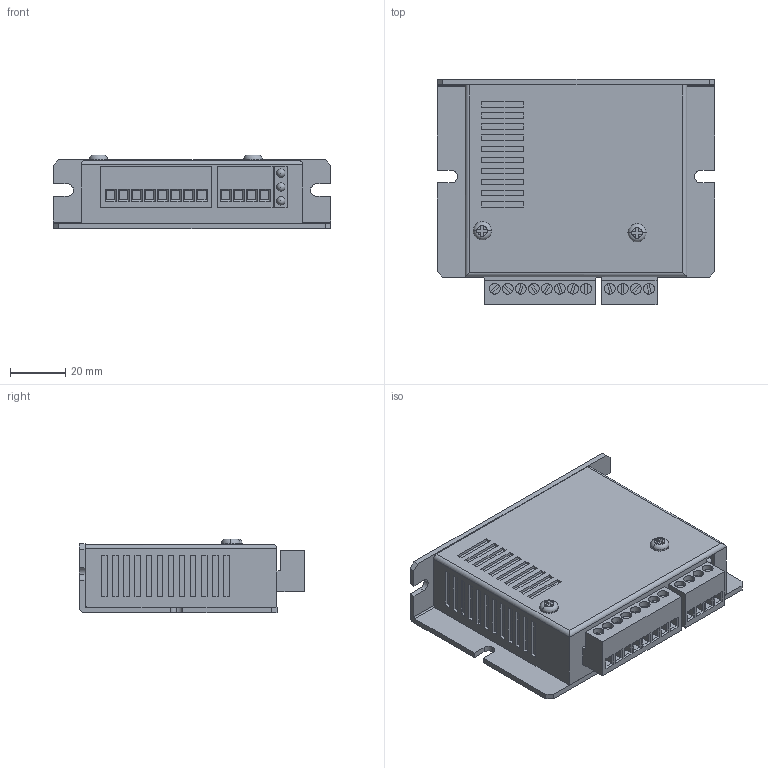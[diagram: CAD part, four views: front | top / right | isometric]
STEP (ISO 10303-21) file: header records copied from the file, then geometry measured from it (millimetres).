
FILE_DESCRIPTION (( 'STEP AP214' ), '1' );
FILE_NAME ('EXD2020M-N.STEP', '2011-09-22T01:20:58', ( 'extion' ), ( '' ), 'SwSTEP 2.0', 'SolidWorks 2010', '' );
FILE_SCHEMA (( 'AUTOMOTIVE_DESIGN' ));
Length unit declared in the file: millimetre
Products named in the file (1): EXD2020M-N
Bounding box: 100 x 81.13 x 26.65 mm (x, y, z)
Volume: 149590.7 mm3; surface area: 28589.1 mm2
Topology: 1 solids, 1 shells, 542 faces, 1334 edges, 864 vertices
Faces by surface type: plane 460, cylinder 75, torus 4, sphere 3
Entity records: 17695 total; most frequent: CARTESIAN_POINT 2796, ORIENTED_EDGE 2650, DIRECTION 2601, EDGE_CURVE 1325, VECTOR 1099, LINE 1099, VERTEX_POINT 858, AXIS2_PLACEMENT_3D 751
